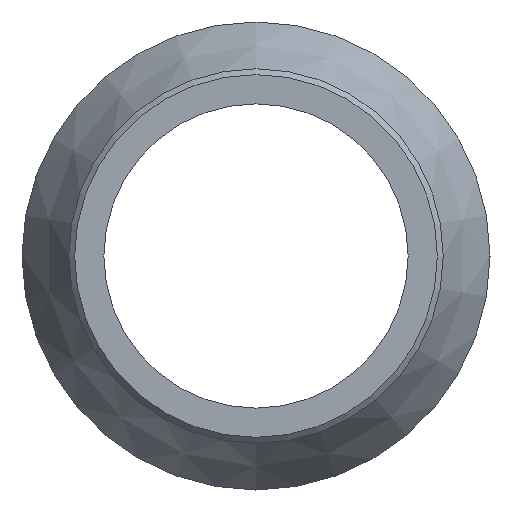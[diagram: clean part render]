
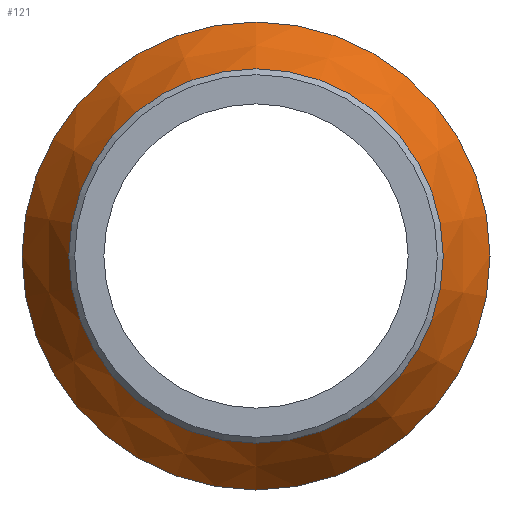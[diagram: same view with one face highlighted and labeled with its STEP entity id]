
A CAD part, left-side view. The second image highlights one B-rep face of the part: STEP entity #121.
In plain terms, the highlighted conical face has half-angle 29.745 degrees and reference radius 20 mm.
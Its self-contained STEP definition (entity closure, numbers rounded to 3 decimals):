
#22=CONICAL_SURFACE('',#146,20.,0.519);
#28=ORIENTED_EDGE('',*,*,#48,.F.);
#29=ORIENTED_EDGE('',*,*,#47,.T.);
#47=EDGE_CURVE('',#57,#57,#67,.T.);
#48=EDGE_CURVE('',#58,#58,#68,.T.);
#57=VERTEX_POINT('',#210);
#58=VERTEX_POINT('',#213);
#67=CIRCLE('',#145,20.);
#68=CIRCLE('',#147,16.);
#78=EDGE_LOOP('',(#28));
#79=EDGE_LOOP('',(#29));
#98=FACE_BOUND('',#78,.T.);
#99=FACE_BOUND('',#79,.T.);
#121=ADVANCED_FACE('',(#98,#99),#22,.T.);
#145=AXIS2_PLACEMENT_3D('',#209,#169,#170);
#146=AXIS2_PLACEMENT_3D('',#211,#171,#172);
#147=AXIS2_PLACEMENT_3D('',#212,#173,#174);
#169=DIRECTION('',(-1.,0.,0.));
#170=DIRECTION('',(0.,0.,1.));
#171=DIRECTION('',(1.,0.,0.));
#172=DIRECTION('',(0.,0.,-1.));
#173=DIRECTION('',(-1.,0.,0.));
#174=DIRECTION('',(0.,0.,1.));
#209=CARTESIAN_POINT('',(3.5,0.,0.));
#210=CARTESIAN_POINT('',(3.5,0.,20.));
#211=CARTESIAN_POINT('',(3.5,0.,0.));
#212=CARTESIAN_POINT('',(-3.5,0.,0.));
#213=CARTESIAN_POINT('',(-3.5,0.,16.));
